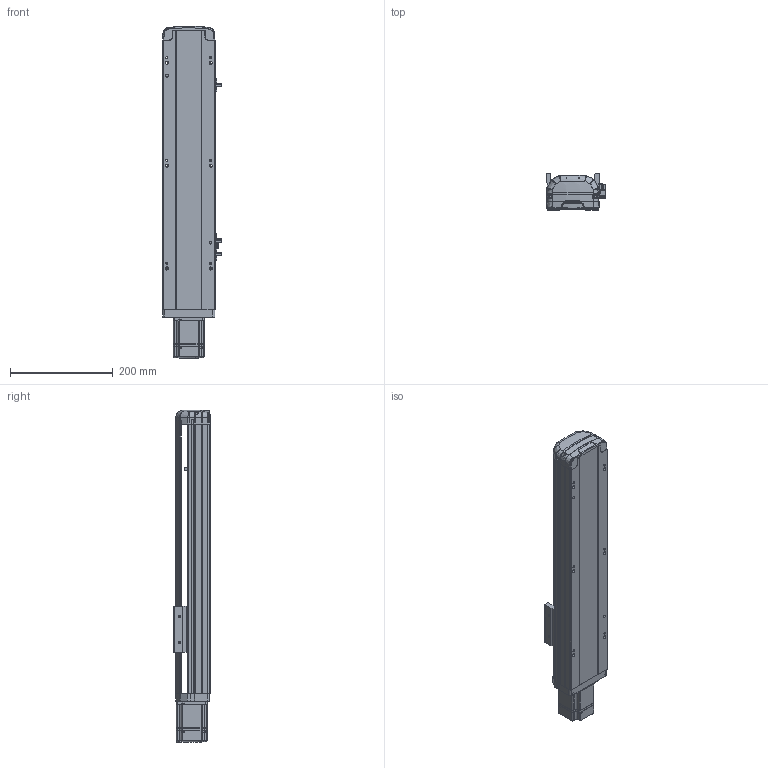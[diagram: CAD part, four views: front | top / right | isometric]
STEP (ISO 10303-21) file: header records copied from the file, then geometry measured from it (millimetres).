
FILE_DESCRIPTION (( 'STEP AP214' ), '1' );
FILE_NAME ('RTH10-XX-300-E-M20-C4.STEP', '2025-10-24T10:40:54', ( '' ), ( '' ), 'SwSTEP 2.0', 'SolidWorks 2018', '' );
FILE_SCHEMA (( 'AUTOMOTIVE_DESIGN' ));
Length unit declared in the file: millimetre
Products named in the file (9): N_RTH13-L-012感应片外置^RTH10-XX-XX-E-M20-C4（方程式）; N_RTH12-E-007P-奻裔^RTH10-XX-XX-E-M20-C4ㄗ源最宒ㄘ; N_200W-1^RTH10-XX-XX-E-M20-C4（方程式）; N_RTH12-GY-001P^RTH10-XX-XX-E-M20-C4（方程式）; N_RTH12-GY-004-滑座^RTH10-XX-XX-E-M20-C4（方程式）; N_RTH12-E-011P-臏倰第菁釱^RTH10-XX-XX-E-M20-C4ㄗ源最宒ㄘ; RTH10-XX-300-E-M20-C4; N_RTH12-E-008-M20电机板^RTH10-XX-XX-E-M20-C4（方程式）; N_OMRON EE-SX672 換覜ん^RTH10-XX-XX-E-M20-C4ㄗ源最宒ㄘ
Assembly tree (10 placements, depth 2):
  RTH10-XX-300-E-M20-C4
    N_RTH12-E-011P-臏倰第菁釱^RTH10-XX-XX-E-M20-C4ㄗ源最宒ㄘ
    N_RTH13-L-012感应片外置^RTH10-XX-XX-E-M20-C4（方程式）
    N_OMRON EE-SX672 換覜ん^RTH10-XX-XX-E-M20-C4ㄗ源最宒ㄘ  x3
    N_RTH12-E-007P-奻裔^RTH10-XX-XX-E-M20-C4ㄗ源最宒ㄘ
    N_RTH12-GY-001P^RTH10-XX-XX-E-M20-C4（方程式）
    N_RTH12-GY-004-滑座^RTH10-XX-XX-E-M20-C4（方程式）
    N_200W-1^RTH10-XX-XX-E-M20-C4（方程式）
    N_RTH12-E-008-M20电机板^RTH10-XX-XX-E-M20-C4（方程式）
Bounding box: 116.5 x 70 x 645.31 mm (x, y, z)
Volume: 2520547.1 mm3; surface area: 408504.7 mm2
Topology: 9 solids, 11 shells, 1968 faces, 5452 edges, 3578 vertices
Faces by surface type: plane 1000, bspline 472, cylinder 461, cone 33, torus 2
Entity records: 58798 total; most frequent: CARTESIAN_POINT 23098, ORIENTED_EDGE 7984, DIRECTION 6168, EDGE_CURVE 3998, VERTEX_POINT 2622, LINE 2176, VECTOR 2176, AXIS2_PLACEMENT_3D 1996
